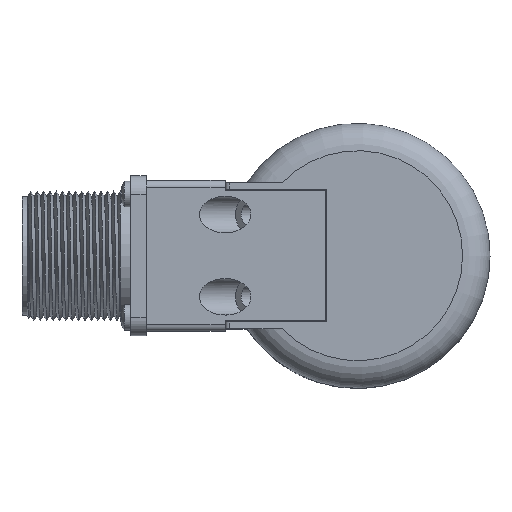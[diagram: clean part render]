
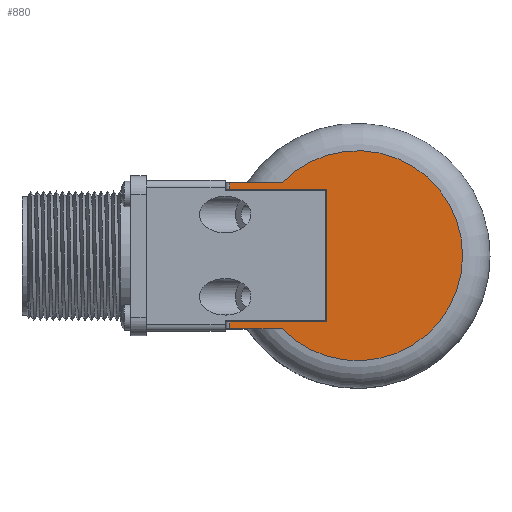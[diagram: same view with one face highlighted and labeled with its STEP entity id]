
A CAD part, top view. The second image highlights one B-rep face of the part: STEP entity #880.
In plain terms, the highlighted planar face has unit normal (0, 0, 1).
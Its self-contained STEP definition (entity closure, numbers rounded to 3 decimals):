
#880 = ADVANCED_FACE( '', ( #2293 ), #2294, .T. );
#2293 = FACE_OUTER_BOUND( '', #6813, .T. );
#2294 = PLANE( '', #6814 );
#6813 = EDGE_LOOP( '', ( #21080, #21081, #21082, #21083, #21084, #21085, #21086, #21087 ) );
#6814 = AXIS2_PLACEMENT_3D( '', #21088, #21089, #21090 );
#21080 = ORIENTED_EDGE( '', *, *, #25682, .T. );
#21081 = ORIENTED_EDGE( '', *, *, #25683, .T. );
#21082 = ORIENTED_EDGE( '', *, *, #25684, .T. );
#21083 = ORIENTED_EDGE( '', *, *, #25685, .T. );
#21084 = ORIENTED_EDGE( '', *, *, #25686, .F. );
#21085 = ORIENTED_EDGE( '', *, *, #25687, .F. );
#21086 = ORIENTED_EDGE( '', *, *, #25489, .T. );
#21087 = ORIENTED_EDGE( '', *, *, #25688, .T. );
#21088 = CARTESIAN_POINT( '', ( -29., 29., 49.9 ) );
#21089 = DIRECTION( '', ( 0., 0., 1. ) );
#21090 = DIRECTION( '', ( 0., -1., 0. ) );
#25489 = EDGE_CURVE( '', #27776, #27780, #27782, .T. );
#25682 = EDGE_CURVE( '', #28096, #28097, #28098, .T. );
#25683 = EDGE_CURVE( '', #28097, #28099, #28100, .T. );
#25684 = EDGE_CURVE( '', #28099, #28101, #28102, .T. );
#25685 = EDGE_CURVE( '', #28101, #28103, #28104, .T. );
#25686 = EDGE_CURVE( '', #28105, #28103, #28106, .T. );
#25687 = EDGE_CURVE( '', #27776, #28105, #28107, .T. );
#25688 = EDGE_CURVE( '', #27780, #28096, #28108, .T. );
#27776 = VERTEX_POINT( '', #32225 );
#27780 = VERTEX_POINT( '', #32230 );
#27782 = LINE( '', #32232, #32233 );
#28096 = VERTEX_POINT( '', #32951 );
#28097 = VERTEX_POINT( '', #32952 );
#28098 = CIRCLE( '', #32953, 23. );
#28099 = VERTEX_POINT( '', #32954 );
#28100 = LINE( '', #32955, #32956 );
#28101 = VERTEX_POINT( '', #32957 );
#28102 = LINE( '', #32958, #32959 );
#28103 = VERTEX_POINT( '', #32960 );
#28104 = LINE( '', #32961, #32962 );
#28105 = VERTEX_POINT( '', #32963 );
#28106 = LINE( '', #32964, #32965 );
#28107 = LINE( '', #32966, #32967 );
#28108 = LINE( '', #32968, #32969 );
#32225 = CARTESIAN_POINT( '', ( -28., -14.5, 49.9 ) );
#32230 = CARTESIAN_POINT( '', ( -28., -16., 49.9 ) );
#32232 = CARTESIAN_POINT( '', ( -28., -16., 49.9 ) );
#32233 = VECTOR( '', #39697, 1000. );
#32951 = CARTESIAN_POINT( '', ( -16.523, -16., 49.9 ) );
#32952 = CARTESIAN_POINT( '', ( -16.523, 16., 49.9 ) );
#32953 = AXIS2_PLACEMENT_3D( '', #39906, #39907, #39908 );
#32954 = CARTESIAN_POINT( '', ( -28., 16., 49.9 ) );
#32955 = CARTESIAN_POINT( '', ( -29., 16., 49.9 ) );
#32956 = VECTOR( '', #39909, 1000. );
#32957 = CARTESIAN_POINT( '', ( -28., 14.5, 49.9 ) );
#32958 = CARTESIAN_POINT( '', ( -28., 14.5, 49.9 ) );
#32959 = VECTOR( '', #39910, 1000. );
#32960 = CARTESIAN_POINT( '', ( -6.7, 14.5, 49.9 ) );
#32961 = CARTESIAN_POINT( '', ( -29., 14.5, 49.9 ) );
#32962 = VECTOR( '', #39911, 1000. );
#32963 = CARTESIAN_POINT( '', ( -6.7, -14.5, 49.9 ) );
#32964 = CARTESIAN_POINT( '', ( -6.7, -14.5, 49.9 ) );
#32965 = VECTOR( '', #39912, 1000. );
#32966 = CARTESIAN_POINT( '', ( -29., -14.5, 49.9 ) );
#32967 = VECTOR( '', #39913, 1000. );
#32968 = CARTESIAN_POINT( '', ( -24.187, -16., 49.9 ) );
#32969 = VECTOR( '', #39914, 1000. );
#39697 = DIRECTION( '', ( 0., -1., 0. ) );
#39906 = CARTESIAN_POINT( '', ( 0., 0., 49.9 ) );
#39907 = DIRECTION( '', ( 0., 0., 1. ) );
#39908 = DIRECTION( '', ( 0., -1., 0. ) );
#39909 = DIRECTION( '', ( -1., 0., 0. ) );
#39910 = DIRECTION( '', ( 0., -1., 0. ) );
#39911 = DIRECTION( '', ( 1., 0., 0. ) );
#39912 = DIRECTION( '', ( 0., 1., 0. ) );
#39913 = DIRECTION( '', ( 1., 0., 0. ) );
#39914 = DIRECTION( '', ( 1., 0., 0. ) );
